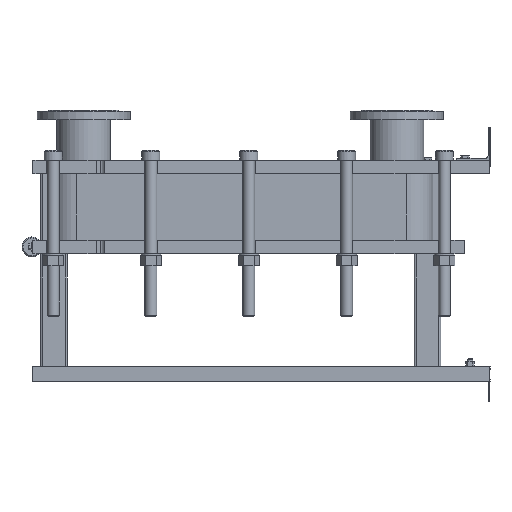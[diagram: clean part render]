
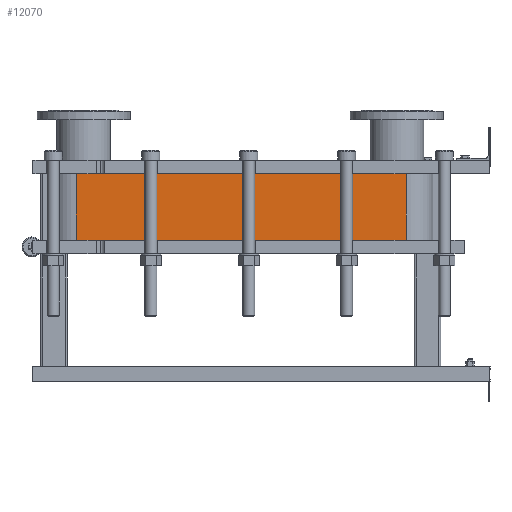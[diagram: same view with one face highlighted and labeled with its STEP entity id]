
A CAD part, left-side view. The second image highlights one B-rep face of the part: STEP entity #12070.
In plain terms, the highlighted planar face has unit normal (-1, 0, 0).
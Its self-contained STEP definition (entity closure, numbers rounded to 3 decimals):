
#1064=LINE('',#21140,#2164);
#1065=LINE('',#21144,#2165);
#1066=LINE('',#21146,#2166);
#1067=LINE('',#21147,#2167);
#2164=VECTOR('',#15790,10.);
#2165=VECTOR('',#15795,10.);
#2166=VECTOR('',#15796,10.);
#2167=VECTOR('',#15797,10.);
#3304=FACE_OUTER_BOUND('',#4091,.T.);
#4091=EDGE_LOOP('',(#9793,#9794,#9795,#9796));
#5677=VERTEX_POINT('',#21137);
#5678=VERTEX_POINT('',#21139);
#5679=VERTEX_POINT('',#21143);
#5680=VERTEX_POINT('',#21145);
#7118=EDGE_CURVE('',#5678,#5677,#1064,.T.);
#7120=EDGE_CURVE('',#5677,#5679,#1065,.T.);
#7121=EDGE_CURVE('',#5680,#5679,#1066,.T.);
#7122=EDGE_CURVE('',#5680,#5678,#1067,.T.);
#9793=ORIENTED_EDGE('',*,*,#7120,.T.);
#9794=ORIENTED_EDGE('',*,*,#7121,.F.);
#9795=ORIENTED_EDGE('',*,*,#7122,.T.);
#9796=ORIENTED_EDGE('',*,*,#7118,.T.);
#11441=PLANE('',#13191);
#12070=ADVANCED_FACE('',(#3304),#11441,.T.);
#13191=AXIS2_PLACEMENT_3D('',#21142,#15793,#15794);
#15790=DIRECTION('',(0.,0.,-1.));
#15793=DIRECTION('center_axis',(-1.,0.,0.));
#15794=DIRECTION('ref_axis',(0.,1.,0.));
#15795=DIRECTION('',(0.,-1.,0.));
#15796=DIRECTION('',(0.,0.,-1.));
#15797=DIRECTION('',(0.,1.,0.));
#21137=CARTESIAN_POINT('',(-248.152,1243.818,-200.1));
#21139=CARTESIAN_POINT('',(-248.152,1243.818,0.));
#21140=CARTESIAN_POINT('',(-248.152,1243.818,0.));
#21142=CARTESIAN_POINT('Origin',(-248.152,251.818,0.));
#21143=CARTESIAN_POINT('',(-248.152,251.818,-200.1));
#21144=CARTESIAN_POINT('',(-248.152,499.818,-200.1));
#21145=CARTESIAN_POINT('',(-248.152,251.818,0.));
#21146=CARTESIAN_POINT('',(-248.152,251.818,0.));
#21147=CARTESIAN_POINT('',(-248.152,251.818,0.));
